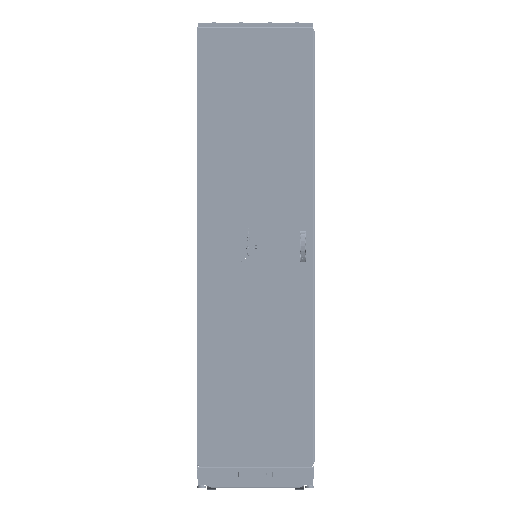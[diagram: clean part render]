
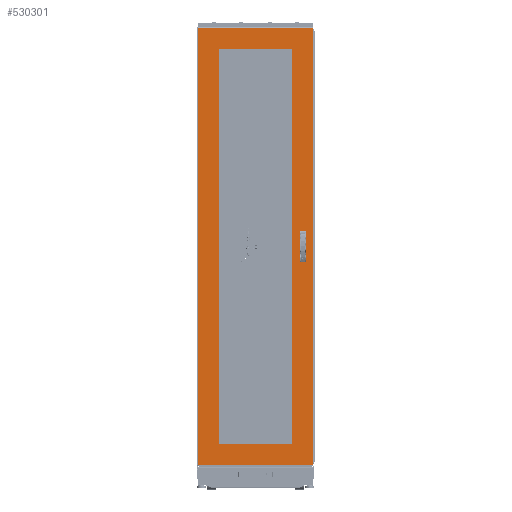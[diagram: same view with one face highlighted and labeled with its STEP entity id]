
A CAD part, top view. The second image highlights one B-rep face of the part: STEP entity #530301.
In plain terms, the highlighted planar face has unit normal (0, 0, 1).
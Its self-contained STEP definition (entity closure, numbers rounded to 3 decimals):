
#5334 = VECTOR ( 'NONE', #589958, 1000. ) ;
#11480 = VERTEX_POINT ( 'NONE', #342195 ) ;
#12034 = DIRECTION ( 'NONE',  ( 0., 1., 0. ) ) ;
#14074 = CARTESIAN_POINT ( 'NONE',  ( 230.333, 75., 1.397 ) ) ;
#18670 = EDGE_LOOP ( 'NONE', ( #206403, #356874, #146231, #221334 ) ) ;
#20469 = DIRECTION ( 'NONE',  ( 0., -1., 0. ) ) ;
#26673 = DIRECTION ( 'NONE',  ( 0., -1., 0. ) ) ;
#39620 = EDGE_CURVE ( 'NONE', #408875, #264910, #143407, .T. ) ;
#40957 = LINE ( 'NONE', #151771, #105943 ) ;
#41119 = CARTESIAN_POINT ( 'NONE',  ( 184., -1008., 1.397 ) ) ;
#48913 = CARTESIAN_POINT ( 'NONE',  ( -184., 1008., 1.397 ) ) ;
#49000 = PLANE ( 'NONE',  #593491 ) ;
#55148 = DIRECTION ( 'NONE',  ( 0., 1., 0. ) ) ;
#67235 = VERTEX_POINT ( 'NONE', #455244 ) ;
#69521 = VERTEX_POINT ( 'NONE', #609065 ) ;
#72985 = VERTEX_POINT ( 'NONE', #193644 ) ;
#74878 = DIRECTION ( 'NONE',  ( 1., 0., 0. ) ) ;
#75803 = ORIENTED_EDGE ( 'NONE', *, *, #544093, .T. ) ;
#83866 = CARTESIAN_POINT ( 'NONE',  ( 294.321, 1116.508, 1.397 ) ) ;
#96706 = CARTESIAN_POINT ( 'NONE',  ( 255.333, 75., 1.397 ) ) ;
#105943 = VECTOR ( 'NONE', #592792, 1000. ) ;
#109938 = ORIENTED_EDGE ( 'NONE', *, *, #39620, .F. ) ;
#111634 = ORIENTED_EDGE ( 'NONE', *, *, #470453, .F. ) ;
#116086 = CARTESIAN_POINT ( 'NONE',  ( 255.333, -75., 1.397 ) ) ;
#120883 = VECTOR ( 'NONE', #26673, 1000. ) ;
#121910 = EDGE_CURVE ( 'NONE', #295306, #72985, #426606, .T. ) ;
#126285 = ORIENTED_EDGE ( 'NONE', *, *, #407670, .F. ) ;
#132858 = DIRECTION ( 'NONE',  ( -1., 0., 0. ) ) ;
#143407 = LINE ( 'NONE', #198826, #239256 ) ;
#146231 = ORIENTED_EDGE ( 'NONE', *, *, #269185, .T. ) ;
#151771 = CARTESIAN_POINT ( 'NONE',  ( 230.333, 75., 1.397 ) ) ;
#166509 = CARTESIAN_POINT ( 'NONE',  ( 184., -1008., 1.397 ) ) ;
#188743 = VERTEX_POINT ( 'NONE', #48913 ) ;
#190023 = EDGE_CURVE ( 'NONE', #72985, #188743, #250715, .T. ) ;
#193644 = CARTESIAN_POINT ( 'NONE',  ( -184., -1008., 1.397 ) ) ;
#194388 = ORIENTED_EDGE ( 'NONE', *, *, #593774, .T. ) ;
#198826 = CARTESIAN_POINT ( 'NONE',  ( 255.333, 75., 1.397 ) ) ;
#202366 = CARTESIAN_POINT ( 'NONE',  ( -295.897, -1119.505, 1.397 ) ) ;
#206403 = ORIENTED_EDGE ( 'NONE', *, *, #190023, .T. ) ;
#208013 = CARTESIAN_POINT ( 'NONE',  ( -184., 1008., 1.397 ) ) ;
#208761 = FACE_OUTER_BOUND ( 'NONE', #412314, .T. ) ;
#213267 = LINE ( 'NONE', #14074, #517961 ) ;
#220234 = VECTOR ( 'NONE', #132858, 1000. ) ;
#221334 = ORIENTED_EDGE ( 'NONE', *, *, #121910, .T. ) ;
#222310 = VECTOR ( 'NONE', #336177, 1000. ) ;
#231650 = LINE ( 'NONE', #479884, #222310 ) ;
#233612 = LINE ( 'NONE', #432786, #626552 ) ;
#237058 = ORIENTED_EDGE ( 'NONE', *, *, #643592, .T. ) ;
#237338 = EDGE_CURVE ( 'NONE', #67235, #11480, #275029, .T. ) ;
#239256 = VECTOR ( 'NONE', #55148, 1000. ) ;
#239915 = ORIENTED_EDGE ( 'NONE', *, *, #302530, .F. ) ;
#243535 = VECTOR ( 'NONE', #74878, 1000. ) ;
#246980 = LINE ( 'NONE', #299312, #5334 ) ;
#248052 = CARTESIAN_POINT ( 'NONE',  ( 292.9, 1116.508, 1.397 ) ) ;
#250715 = LINE ( 'NONE', #208013, #399545 ) ;
#253004 = DIRECTION ( 'NONE',  ( 1., 0., 0. ) ) ;
#264910 = VERTEX_POINT ( 'NONE', #96706 ) ;
#269185 = EDGE_CURVE ( 'NONE', #579849, #295306, #231650, .T. ) ;
#269993 = CARTESIAN_POINT ( 'NONE',  ( 184., 1008., 1.397 ) ) ;
#270891 = CARTESIAN_POINT ( 'NONE',  ( 230.333, -75., 1.397 ) ) ;
#275029 = LINE ( 'NONE', #474202, #120883 ) ;
#293087 = VERTEX_POINT ( 'NONE', #439602 ) ;
#295306 = VERTEX_POINT ( 'NONE', #166509 ) ;
#299312 = CARTESIAN_POINT ( 'NONE',  ( 292.9, -1117.929, 1.397 ) ) ;
#302530 = EDGE_CURVE ( 'NONE', #264910, #293087, #40957, .T. ) ;
#311648 = VERTEX_POINT ( 'NONE', #563206 ) ;
#314060 = VECTOR ( 'NONE', #625897, 1000. ) ;
#336177 = DIRECTION ( 'NONE',  ( 0., -1., 0. ) ) ;
#342195 = CARTESIAN_POINT ( 'NONE',  ( -292.9, -1116.508, 1.397 ) ) ;
#356874 = ORIENTED_EDGE ( 'NONE', *, *, #583584, .T. ) ;
#357455 = CARTESIAN_POINT ( 'NONE',  ( 184., 1008., 1.397 ) ) ;
#393660 = VERTEX_POINT ( 'NONE', #248052 ) ;
#399545 = VECTOR ( 'NONE', #12034, 1000. ) ;
#407670 = EDGE_CURVE ( 'NONE', #293087, #69521, #213267, .T. ) ;
#408875 = VERTEX_POINT ( 'NONE', #116086 ) ;
#412314 = EDGE_LOOP ( 'NONE', ( #75803, #600941, #237058, #194388 ) ) ;
#426606 = LINE ( 'NONE', #41119, #314060 ) ;
#432786 = CARTESIAN_POINT ( 'NONE',  ( -294.321, -1116.508, 1.397 ) ) ;
#439602 = CARTESIAN_POINT ( 'NONE',  ( 230.333, 75., 1.397 ) ) ;
#444222 = FACE_BOUND ( 'NONE', #18670, .T. ) ;
#455244 = CARTESIAN_POINT ( 'NONE',  ( -292.9, 1116.508, 1.397 ) ) ;
#457107 = FACE_BOUND ( 'NONE', #530979, .T. ) ;
#470453 = EDGE_CURVE ( 'NONE', #69521, #408875, #473307, .T. ) ;
#473307 = LINE ( 'NONE', #270891, #243535 ) ;
#474202 = CARTESIAN_POINT ( 'NONE',  ( -292.9, 1117.929, 1.397 ) ) ;
#479884 = CARTESIAN_POINT ( 'NONE',  ( 184., 1008., 1.397 ) ) ;
#504416 = LINE ( 'NONE', #357455, #588303 ) ;
#517961 = VECTOR ( 'NONE', #20469, 1000. ) ;
#530301 = ADVANCED_FACE ( 'NONE', ( #457107, #444222, #208761 ), #49000, .T. ) ;
#530979 = EDGE_LOOP ( 'NONE', ( #109938, #111634, #126285, #239915 ) ) ;
#542176 = DIRECTION ( 'NONE',  ( 0., 0., 1. ) ) ;
#544093 = EDGE_CURVE ( 'NONE', #393660, #67235, #616487, .T. ) ;
#563206 = CARTESIAN_POINT ( 'NONE',  ( 292.9, -1116.508, 1.397 ) ) ;
#570142 = DIRECTION ( 'NONE',  ( 1., 0., 0. ) ) ;
#579849 = VERTEX_POINT ( 'NONE', #269993 ) ;
#583584 = EDGE_CURVE ( 'NONE', #188743, #579849, #504416, .T. ) ;
#588303 = VECTOR ( 'NONE', #253004, 1000. ) ;
#589958 = DIRECTION ( 'NONE',  ( 0., 1., 0. ) ) ;
#591195 = DIRECTION ( 'NONE',  ( 1., 0., 0. ) ) ;
#592792 = DIRECTION ( 'NONE',  ( -1., 0., 0. ) ) ;
#593491 = AXIS2_PLACEMENT_3D ( 'NONE', #202366, #542176, #591195 ) ;
#593774 = EDGE_CURVE ( 'NONE', #311648, #393660, #246980, .T. ) ;
#600941 = ORIENTED_EDGE ( 'NONE', *, *, #237338, .T. ) ;
#609065 = CARTESIAN_POINT ( 'NONE',  ( 230.333, -75., 1.397 ) ) ;
#616487 = LINE ( 'NONE', #83866, #220234 ) ;
#625897 = DIRECTION ( 'NONE',  ( -1., 0., 0. ) ) ;
#626552 = VECTOR ( 'NONE', #570142, 1000. ) ;
#643592 = EDGE_CURVE ( 'NONE', #11480, #311648, #233612, .T. ) ;
